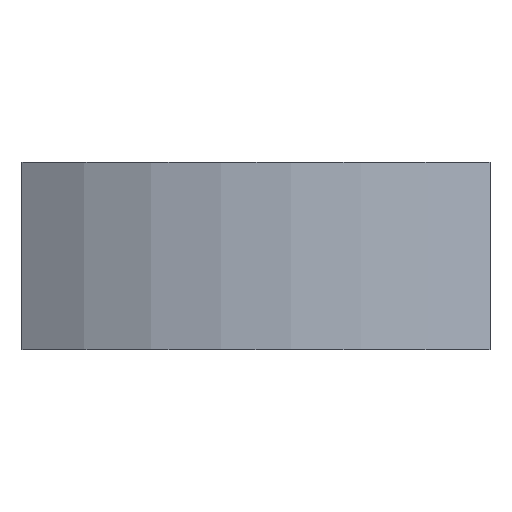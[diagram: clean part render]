
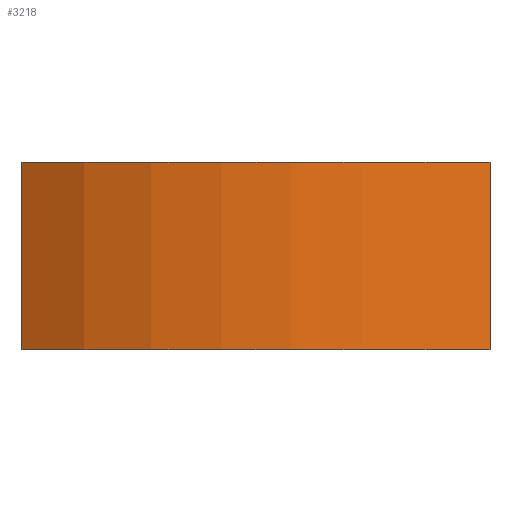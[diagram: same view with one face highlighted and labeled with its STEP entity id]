
A CAD part, left-side view. The second image highlights one B-rep face of the part: STEP entity #3218.
In plain terms, the highlighted cylindrical face has radius 22.5 mm (diameter 45 mm), a partial arc.
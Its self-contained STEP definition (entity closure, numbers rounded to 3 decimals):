
#134=CIRCLE('',#3333,22.5);
#138=CIRCLE('',#3345,22.5);
#146=CYLINDRICAL_SURFACE('',#3344,22.5);
#317=FACE_OUTER_BOUND('',#514,.T.);
#514=EDGE_LOOP('',(#2913,#2914,#2915,#2916));
#794=LINE('',#5967,#1067);
#795=LINE('',#5970,#1068);
#1067=VECTOR('',#3816,10.);
#1068=VECTOR('',#3819,10.);
#1548=VERTEX_POINT('',#5944);
#1549=VERTEX_POINT('',#5946);
#1554=VERTEX_POINT('',#5966);
#1555=VERTEX_POINT('',#5968);
#2007=EDGE_CURVE('',#1548,#1549,#134,.T.);
#2014=EDGE_CURVE('',#1554,#1548,#794,.T.);
#2015=EDGE_CURVE('',#1555,#1554,#138,.T.);
#2016=EDGE_CURVE('',#1549,#1555,#795,.T.);
#2913=ORIENTED_EDGE('',*,*,#2007,.F.);
#2914=ORIENTED_EDGE('',*,*,#2014,.F.);
#2915=ORIENTED_EDGE('',*,*,#2015,.F.);
#2916=ORIENTED_EDGE('',*,*,#2016,.F.);
#3218=ADVANCED_FACE('',(#317),#146,.T.);
#3333=AXIS2_PLACEMENT_3D('',#5947,#3789,#3790);
#3344=AXIS2_PLACEMENT_3D('',#5965,#3814,#3815);
#3345=AXIS2_PLACEMENT_3D('',#5969,#3817,#3818);
#3789=DIRECTION('center_axis',(0.,0.,1.));
#3790=DIRECTION('ref_axis',(0.831,-0.556,0.));
#3814=DIRECTION('center_axis',(0.,0.,-1.));
#3815=DIRECTION('ref_axis',(0.831,-0.556,0.));
#3816=DIRECTION('',(0.,0.,1.));
#3817=DIRECTION('center_axis',(0.,0.,-1.));
#3818=DIRECTION('ref_axis',(0.831,-0.556,0.));
#3819=DIRECTION('',(0.,0.,-1.));
#5944=CARTESIAN_POINT('',(-18.708,12.5,10.));
#5946=CARTESIAN_POINT('',(-18.708,-12.5,10.));
#5947=CARTESIAN_POINT('Origin',(0.,0.,10.));
#5965=CARTESIAN_POINT('Origin',(0.,0.,10.));
#5966=CARTESIAN_POINT('',(-18.708,12.5,0.));
#5967=CARTESIAN_POINT('',(-18.708,12.5,10.));
#5968=CARTESIAN_POINT('',(-18.708,-12.5,0.));
#5969=CARTESIAN_POINT('Origin',(0.,0.,0.));
#5970=CARTESIAN_POINT('',(-18.708,-12.5,10.));
